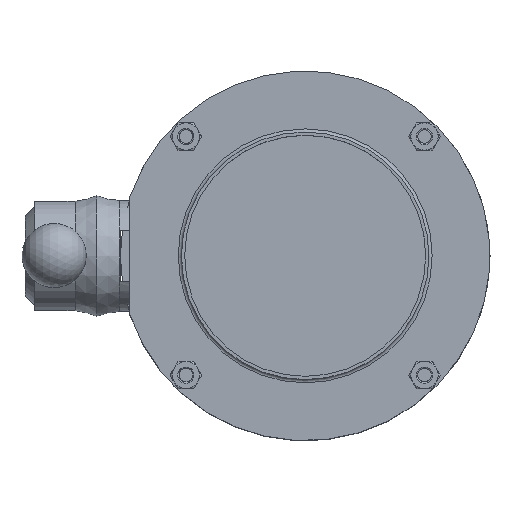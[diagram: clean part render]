
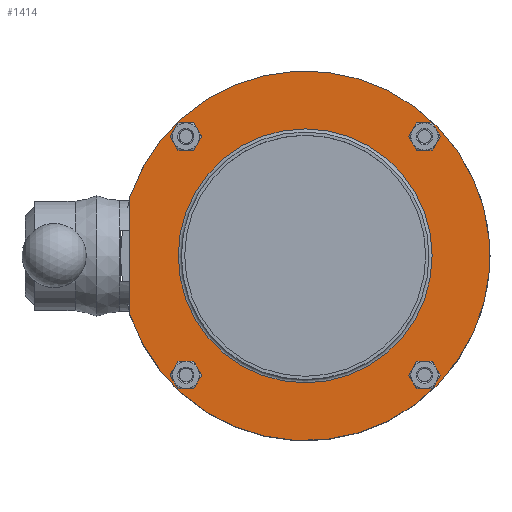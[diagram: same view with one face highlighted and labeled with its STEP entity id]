
A CAD part, top view. The second image highlights one B-rep face of the part: STEP entity #1414.
In plain terms, the highlighted planar face has unit normal (0, 0, 1) as drawn and (0, -1, 0) by its records, which use the part's own axes.
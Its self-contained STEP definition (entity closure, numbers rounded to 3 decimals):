
#169=FACE_BOUND('',#437,.T.);
#170=FACE_BOUND('',#438,.T.);
#171=FACE_BOUND('',#439,.T.);
#172=FACE_BOUND('',#440,.T.);
#173=FACE_BOUND('',#441,.T.);
#245=CIRCLE('',#1682,5.25);
#247=CIRCLE('',#1685,5.25);
#249=CIRCLE('',#1688,5.25);
#251=CIRCLE('',#1691,5.25);
#256=CIRCLE('',#1699,79.);
#257=CIRCLE('',#1701,115.);
#329=FACE_OUTER_BOUND('',#436,.T.);
#436=EDGE_LOOP('',(#1139,#1140));
#437=EDGE_LOOP('',(#1141));
#438=EDGE_LOOP('',(#1142));
#439=EDGE_LOOP('',(#1143));
#440=EDGE_LOOP('',(#1144));
#441=EDGE_LOOP('',(#1145));
#535=LINE('',#2474,#607);
#607=VECTOR('',#2011,10.);
#690=VERTEX_POINT('',#2450);
#692=VERTEX_POINT('',#2456);
#694=VERTEX_POINT('',#2462);
#696=VERTEX_POINT('',#2468);
#697=VERTEX_POINT('',#2472);
#698=VERTEX_POINT('',#2473);
#703=VERTEX_POINT('',#2487);
#839=EDGE_CURVE('',#690,#690,#245,.T.);
#842=EDGE_CURVE('',#692,#692,#247,.T.);
#845=EDGE_CURVE('',#694,#694,#249,.T.);
#848=EDGE_CURVE('',#696,#696,#251,.T.);
#849=EDGE_CURVE('',#697,#698,#535,.T.);
#857=EDGE_CURVE('',#703,#703,#256,.T.);
#858=EDGE_CURVE('',#697,#698,#257,.T.);
#1139=ORIENTED_EDGE('',*,*,#849,.T.);
#1140=ORIENTED_EDGE('',*,*,#858,.F.);
#1141=ORIENTED_EDGE('',*,*,#839,.T.);
#1142=ORIENTED_EDGE('',*,*,#842,.T.);
#1143=ORIENTED_EDGE('',*,*,#845,.T.);
#1144=ORIENTED_EDGE('',*,*,#848,.T.);
#1145=ORIENTED_EDGE('',*,*,#857,.T.);
#1354=PLANE('',#1700);
#1414=ADVANCED_FACE('',(#329,#169,#170,#171,#172,#173),#1354,.T.);
#1682=AXIS2_PLACEMENT_3D('',#2452,#1986,#1987);
#1685=AXIS2_PLACEMENT_3D('',#2458,#1993,#1994);
#1688=AXIS2_PLACEMENT_3D('',#2464,#2000,#2001);
#1691=AXIS2_PLACEMENT_3D('',#2470,#2007,#2008);
#1699=AXIS2_PLACEMENT_3D('',#2489,#2027,#2028);
#1700=AXIS2_PLACEMENT_3D('',#2490,#2029,#2030);
#1701=AXIS2_PLACEMENT_3D('',#2491,#2031,#2032);
#1986=DIRECTION('center_axis',(0.,1.,0.));
#1987=DIRECTION('ref_axis',(-1.,0.,0.));
#1993=DIRECTION('center_axis',(0.,1.,0.));
#1994=DIRECTION('ref_axis',(-1.,0.,0.));
#2000=DIRECTION('center_axis',(0.,1.,0.));
#2001=DIRECTION('ref_axis',(-1.,0.,0.));
#2007=DIRECTION('center_axis',(0.,1.,0.));
#2008=DIRECTION('ref_axis',(-1.,0.,0.));
#2011=DIRECTION('',(0.,0.,1.));
#2027=DIRECTION('center_axis',(0.,1.,0.));
#2028=DIRECTION('ref_axis',(1.,0.,0.));
#2029=DIRECTION('center_axis',(0.,-1.,0.));
#2030=DIRECTION('ref_axis',(0.,0.,-1.));
#2031=DIRECTION('center_axis',(0.,1.,0.));
#2032=DIRECTION('ref_axis',(1.,0.,0.));
#2450=CARTESIAN_POINT('',(79.496,-16.,74.246));
#2452=CARTESIAN_POINT('Origin',(74.246,-16.,74.246));
#2456=CARTESIAN_POINT('',(-68.996,-16.,74.246));
#2458=CARTESIAN_POINT('Origin',(-74.246,-16.,74.246));
#2462=CARTESIAN_POINT('',(-68.996,-16.,-74.246));
#2464=CARTESIAN_POINT('Origin',(-74.246,-16.,-74.246));
#2468=CARTESIAN_POINT('',(79.496,-16.,-74.246));
#2470=CARTESIAN_POINT('Origin',(74.246,-16.,-74.246));
#2472=CARTESIAN_POINT('',(109.,-16.,-36.661));
#2473=CARTESIAN_POINT('',(109.,-16.,36.661));
#2474=CARTESIAN_POINT('',(109.,-16.,122.226));
#2487=CARTESIAN_POINT('',(0.,-16.,-79.));
#2489=CARTESIAN_POINT('Origin',(0.,-16.,0.));
#2490=CARTESIAN_POINT('Origin',(0.,-16.,115.));
#2491=CARTESIAN_POINT('Origin',(0.,-16.,0.));
